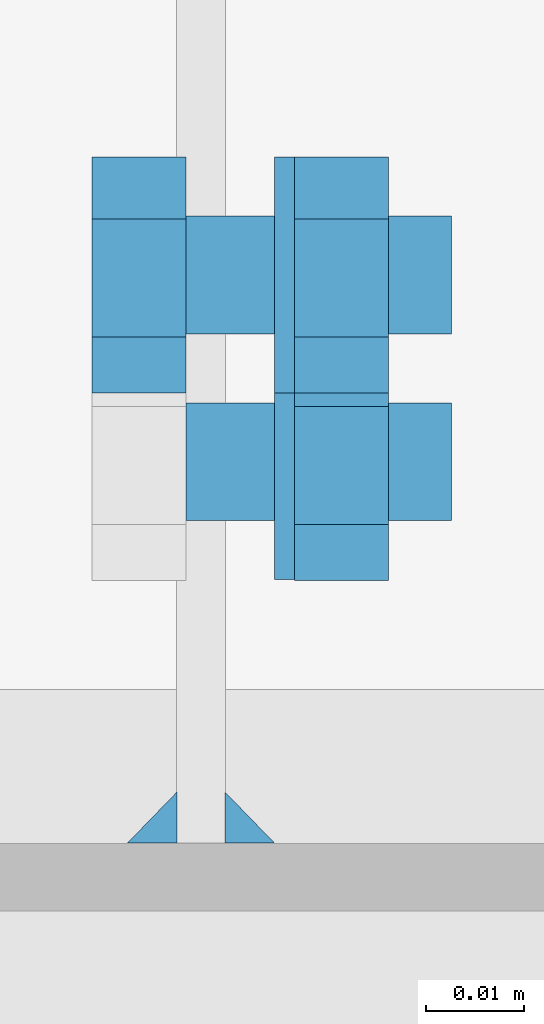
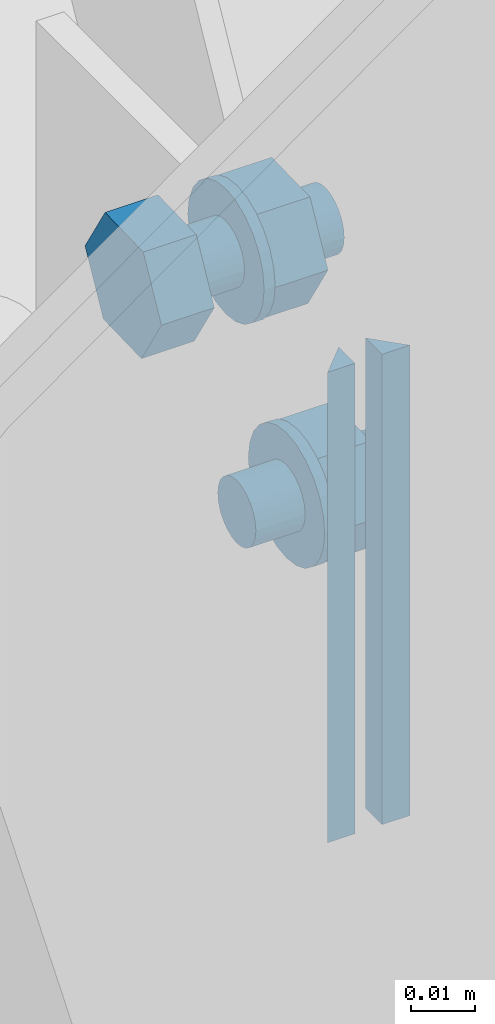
# One storey, part 21 of 29: 7 mechanical fasteners, 2 fasteners.
"""IFC4 building model written with IfcOpenShell, lengths in metres."""

from ifc_helpers import new_model, si_unit, frame, origin_with_axes, place, context, project, spatial, polyline, outline, extrude, type_object, element, save


model = new_model("IFC4")

# Units and contexts
model_context = context("Model", 3, precision=1e-05, world=origin_with_axes())
ifc_project = project(units=[si_unit("LENGTHUNIT", "METRE"), si_unit("AREAUNIT", "SQUARE_METRE"), si_unit("VOLUMEUNIT", "CUBIC_METRE"), si_unit("MASSUNIT", "GRAM", prefix="KILO"), si_unit("TIMEUNIT", "SECOND"), si_unit("PLANEANGLEUNIT", "RADIAN"), si_unit("SOLIDANGLEUNIT", "STERADIAN"), si_unit("THERMODYNAMICTEMPERATUREUNIT", "DEGREE_CELSIUS")], contexts=[model_context])

# Site, building, storey
placement_1 = place(None, origin_with_axes())
site = spatial("IfcSite", under=ifc_project, at=placement_1, Name="Italia", CompositionType="ELEMENT")
building = spatial("IfcBuilding", under=site, at=placement_1, Name="Capannone", CompositionType="ELEMENT")
storey = spatial("IfcBuildingStorey", under=building, at=placement_1, Name="Storey 0", CompositionType="ELEMENT", Elevation=0.0)

# Mechanical fasteners
mechanical_fastener_type_1 = type_object("IfcMechanicalFastenerType", Name="Collegamento 0009_0111", PredefinedType="BOLT")
placement_2 = place(placement_1, origin_with_axes())
mechanical_fastener_1_placement = place(placement_2, origin_with_axes())
element("IfcMechanicalFastener", 1, at=mechanical_fastener_1_placement, inside=storey, type_object=mechanical_fastener_type_1, Name="Collegamento 0009_0111", NominalDiameter=0.012, context=model_context, shape_type="SweptSolid", body=[
    extrude(outline(polyline([(0.0, 0.0), (-0.000204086, -0.00155292), (-0.000802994, -0.003), (-0.00175667, -0.00424264), (-0.00299931, -0.00519615), (-0.00444698, -0.00579555), (-0.00599957, -0.006), (-0.00755215, -0.00579555), (-0.00899982, -0.00519615), (-0.0102425, -0.00424264), (-0.0111961, -0.003), (-0.011795, -0.00155292), (-0.0119991, 0.0), (-0.011795, 0.00155292), (-0.0111961, 0.003), (-0.0102425, 0.00424264), (-0.00899982, 0.00519615), (-0.00755215, 0.00579555), (-0.00599957, 0.006), (-0.00444698, 0.00579555), (-0.00299931, 0.00519615), (-0.00175667, 0.00424264), (-0.000802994, 0.003), (-0.000204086, 0.00155291), (0.0, 0.0)])), frame((0.019, 12.0363, 0.117557), z_axis=(-1.0, 0.0, 0.0), x_axis=(0.0, -1.0, 0.0)), (0.0, 0.0, 1.0), 0.027),
])
mechanical_fastener_type_2 = type_object("IfcMechanicalFastenerType", Name="Collegamento 0009_0111", PredefinedType="BOLT")
mechanical_fastener_2_placement = place(placement_2, origin_with_axes())
element("IfcMechanicalFastener", 2, at=mechanical_fastener_2_placement, inside=storey, type_object=mechanical_fastener_type_2, Name="Collegamento 0009_0111", NominalDiameter=0.0119997, context=model_context, shape_type="SweptSolid", body=[
    extrude(outline(polyline([(0.0, 0.0), (0.00570583, -0.0105565), (0.0177011, -0.010893), (0.0239906, -0.000673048), (0.0182838, 0.00988343), (0.00628853, 0.01022), (0.0, 0.0)])), frame((0.0126, 12.0542, 0.117894), z_axis=(-1.0, 0.0, 0.0), x_axis=(0.0, -1.0, 0.0)), (0.0, 0.0, 1.0), 0.0096),
])
mechanical_fastener_type_3 = type_object("IfcMechanicalFastenerType", Name="Collegamento 0009_0111", PredefinedType="BOLT")
mechanical_fastener_3_placement = place(placement_2, origin_with_axes())
element("IfcMechanicalFastener", 3, at=mechanical_fastener_3_placement, inside=storey, type_object=mechanical_fastener_type_3, Name="Collegamento 0009_0111", NominalDiameter=0.024, context=model_context, shape_type="SweptSolid", body=[
    extrude(outline(polyline([(0.0, 0.0), (-0.000409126, -0.00310583), (-0.00160789, -0.006), (-0.00351524, -0.00848528), (-0.00600052, -0.0103923), (-0.00889397, -0.0115911), (-0.0120001, -0.012), (-0.0151062, -0.0115911), (-0.0179996, -0.0103923), (-0.0204849, -0.00848528), (-0.0223923, -0.006), (-0.023591, -0.00310583), (-0.0240002, 0.0), (-0.023591, 0.00310583), (-0.0223923, 0.006), (-0.0204849, 0.00848529), (-0.0179996, 0.0103923), (-0.0151062, 0.0115911), (-0.0120001, 0.012), (-0.00889397, 0.0115911), (-0.00600052, 0.0103923), (-0.00351524, 0.00848527), (-0.00160789, 0.006), (-0.000409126, 0.00310583), (0.0, 0.0)])), frame((0.003, 12.0303, 0.117557), z_axis=(-1.0, 0.0, 0.0), x_axis=(0.0, -1.0, 0.0)), (0.0, 0.0, 1.0), 0.002),
])
mechanical_fastener_type_4 = type_object("IfcMechanicalFastenerType", Name="Collegamento 0009_0111", PredefinedType="BOLT")
mechanical_fastener_4_placement = place(placement_2, origin_with_axes())
element("IfcMechanicalFastener", 4, at=mechanical_fastener_4_placement, inside=storey, type_object=mechanical_fastener_type_4, Name="Collegamento 0009_0111", NominalDiameter=0.0119997, context=model_context, shape_type="SweptSolid", body=[
    extrude(outline(polyline([(0.0, 0.0), (0.00570679, -0.0105565), (0.0177021, -0.010893), (0.0239906, -0.000673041), (0.0182848, 0.00988343), (0.00628948, 0.01022), (0.0, 0.0)])), frame((-0.008, 12.0733, 0.153082), z_axis=(-1.0, 0.0, 0.0), x_axis=(0.0, -1.0, 0.0)), (0.0, 0.0, 1.0), 0.0096),
])
mechanical_fastener_type_5 = type_object("IfcMechanicalFastenerType", Name="Collegamento 0009_0111", PredefinedType="BOLT")
mechanical_fastener_5_placement = place(placement_2, origin_with_axes())
element("IfcMechanicalFastener", 5, at=mechanical_fastener_5_placement, inside=storey, type_object=mechanical_fastener_type_5, Name="Collegamento 0009_0111", NominalDiameter=0.012, context=model_context, shape_type="SweptSolid", body=[
    extrude(outline(polyline([(0.0, 0.0), (-0.000204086, -0.00155291), (-0.000802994, -0.00300001), (-0.00175667, -0.00424264), (-0.00299931, -0.00519615), (-0.00444698, -0.00579555), (-0.00599957, -0.006), (-0.00755215, -0.00579555), (-0.00899982, -0.00519615), (-0.0102425, -0.00424264), (-0.0111961, -0.00300001), (-0.011795, -0.00155291), (-0.0119991, 0.0), (-0.011795, 0.00155291), (-0.0111961, 0.00300001), (-0.0102425, 0.00424264), (-0.00899982, 0.00519615), (-0.00755215, 0.00579555), (-0.00599957, 0.006), (-0.00444698, 0.00579555), (-0.00299931, 0.00519615), (-0.00175667, 0.00424264), (-0.000802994, 0.00300001), (-0.000204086, 0.00155291), (0.0, 0.0)])), frame((0.019, 12.0553, 0.152746), z_axis=(-1.0, 0.0, 0.0), x_axis=(0.0, -1.0, 0.0)), (0.0, 0.0, 1.0), 0.027),
])
mechanical_fastener_type_6 = type_object("IfcMechanicalFastenerType", Name="Collegamento 0009_0111", PredefinedType="BOLT")
mechanical_fastener_6_placement = place(placement_2, origin_with_axes())
element("IfcMechanicalFastener", 6, at=mechanical_fastener_6_placement, inside=storey, type_object=mechanical_fastener_type_6, Name="Collegamento 0009_0111", NominalDiameter=0.0119997, context=model_context, shape_type="SweptSolid", body=[
    extrude(outline(polyline([(0.0, 0.0), (0.00570679, -0.0105565), (0.0177021, -0.010893), (0.0239906, -0.000673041), (0.0182848, 0.00988343), (0.00628948, 0.01022), (0.0, 0.0)])), frame((0.0126, 12.0733, 0.153082), z_axis=(-1.0, 0.0, 0.0), x_axis=(0.0, -1.0, 0.0)), (0.0, 0.0, 1.0), 0.0096),
])
mechanical_fastener_type_7 = type_object("IfcMechanicalFastenerType", Name="Collegamento 0009_0111", PredefinedType="BOLT")
mechanical_fastener_7_placement = place(placement_2, origin_with_axes())
element("IfcMechanicalFastener", 7, at=mechanical_fastener_7_placement, inside=storey, type_object=mechanical_fastener_type_7, Name="Collegamento 0009_0111", NominalDiameter=0.024, context=model_context, shape_type="SweptSolid", body=[
    extrude(outline(polyline([(0.0, 0.0), (-0.000409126, -0.00310583), (-0.00160789, -0.006), (-0.00351524, -0.00848529), (-0.00600052, -0.0103923), (-0.00889397, -0.0115911), (-0.0120001, -0.012), (-0.0151062, -0.0115911), (-0.0179996, -0.0103923), (-0.0204849, -0.00848529), (-0.0223923, -0.006), (-0.023591, -0.00310583), (-0.0240002, 0.0), (-0.023591, 0.00310583), (-0.0223923, 0.006), (-0.0204849, 0.00848529), (-0.0179996, 0.0103923), (-0.0151062, 0.0115911), (-0.0120001, 0.012), (-0.00889397, 0.0115911), (-0.00600052, 0.0103923), (-0.00351524, 0.00848527), (-0.00160789, 0.006), (-0.000409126, 0.00310582), (0.0, 0.0)])), frame((0.003, 12.0493, 0.152746), z_axis=(-1.0, 0.0, 0.0), x_axis=(0.0, -1.0, 0.0)), (0.0, 0.0, 1.0), 0.002),
])

# Fasteners
fastener_type_1 = type_object("IfcFastenerType", Name="Collegamento 0009_0111", PredefinedType="WELD")
fastener_1_placement = place(placement_2, origin_with_axes())
element("IfcFastener", 8, at=fastener_1_placement, inside=storey, type_object=fastener_type_1, Name="Collegamento 0009_0111", context=model_context, shape_type="SweptSolid", body=[
    extrude(outline(polyline([(0.0, 0.0), (0.00517273, -0.00501816), (0.0, -0.00501816), (0.0, 0.0)])), frame((0.000968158, 12.0035, 0.169878), z_axis=(0.0, 0.0, -1.0), x_axis=(0.0, 1.0, 0.0)), (0.0, 0.0, 1.0), 0.0901002),
])
fastener_type_2 = type_object("IfcFastenerType", Name="Collegamento 0009_0111", PredefinedType="WELD")
fastener_2_placement = place(placement_2, origin_with_axes())
element("IfcFastener", 9, at=fastener_2_placement, inside=storey, type_object=fastener_type_2, Name="Collegamento 0009_0111", context=model_context, shape_type="SweptSolid", body=[
    extrude(outline(polyline([(0.0, 0.0), (0.00517273, -0.00501816), (0.0, -0.00501816), (0.0, 0.0)])), frame((-0.0139682, 12.0035, 0.0797776), z_axis=(0.0, 0.0, 1.0), x_axis=(0.0, 1.0, 0.0)), (0.0, 0.0, 1.0), 0.0901003),
])

save(model, "model.ifc")
